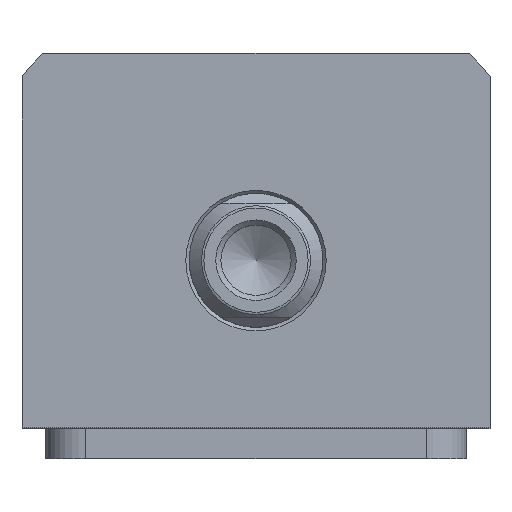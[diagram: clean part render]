
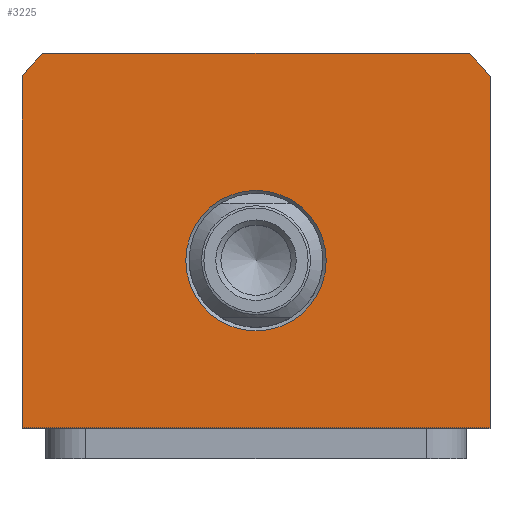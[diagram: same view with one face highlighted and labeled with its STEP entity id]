
A CAD part, top view. The second image highlights one B-rep face of the part: STEP entity #3225.
In plain terms, the highlighted planar face has unit normal (0, 0, 1).
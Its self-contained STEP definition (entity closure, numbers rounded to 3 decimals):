
#3225=ADVANCED_FACE('',(#3992,#3993),#3659,.T.);
#3659=PLANE('',#11125);
#3992=FACE_BOUND('',#4199,.T.);
#3993=FACE_BOUND('',#4200,.T.);
#4199=EDGE_LOOP('',(#6665));
#4200=EDGE_LOOP('',(#6666,#6667,#6668,#6669,#6670,#6671));
#4710=LINE('',#13414,#5547);
#4743=LINE('',#14075,#5580);
#4763=LINE('',#14130,#5600);
#4772=LINE('',#14156,#5609);
#5547=VECTOR('',#11532,1.);
#5580=VECTOR('',#11679,1.);
#5600=VECTOR('',#11727,1.);
#5609=VECTOR('',#11750,1.);
#6665=ORIENTED_EDGE('',*,*,#9744,.T.);
#6666=ORIENTED_EDGE('',*,*,#9839,.T.);
#6667=ORIENTED_EDGE('',*,*,#9867,.T.);
#6668=ORIENTED_EDGE('',*,*,#9853,.T.);
#6669=ORIENTED_EDGE('',*,*,#9881,.T.);
#6670=ORIENTED_EDGE('',*,*,#9849,.T.);
#6671=ORIENTED_EDGE('',*,*,#9731,.T.);
#8884=VERTEX_POINT('',#13413);
#8885=VERTEX_POINT('',#13415);
#8897=VERTEX_POINT('',#13441);
#8984=VERTEX_POINT('',#14074);
#8991=VERTEX_POINT('',#14093);
#8993=VERTEX_POINT('',#14099);
#8996=VERTEX_POINT('',#14104);
#9731=EDGE_CURVE('',#8885,#8884,#4710,.T.);
#9744=EDGE_CURVE('',#8897,#8897,#10931,.T.);
#9839=EDGE_CURVE('',#8884,#8984,#4743,.T.);
#9849=EDGE_CURVE('',#8991,#8885,#10969,.T.);
#9853=EDGE_CURVE('',#8993,#8996,#10971,.T.);
#9867=EDGE_CURVE('',#8984,#8993,#4763,.T.);
#9881=EDGE_CURVE('',#8996,#8991,#4772,.T.);
#10931=CIRCLE('',#11043,10.5);
#10969=CIRCLE('',#11107,44.5);
#10971=CIRCLE('',#11110,44.5);
#11043=AXIS2_PLACEMENT_3D('',#13440,#11547,#11548);
#11107=AXIS2_PLACEMENT_3D('',#14096,#11700,#11701);
#11110=AXIS2_PLACEMENT_3D('',#14105,#11708,#11709);
#11125=AXIS2_PLACEMENT_3D('',#14167,#11764,#11765);
#11532=DIRECTION('',(0.,-1.,0.));
#11547=DIRECTION('',(0.,0.,-1.));
#11548=DIRECTION('',(1.,0.,0.));
#11679=DIRECTION('',(1.,0.,0.));
#11700=DIRECTION('',(0.,0.,1.));
#11701=DIRECTION('',(1.,0.,0.));
#11708=DIRECTION('',(0.,0.,1.));
#11709=DIRECTION('',(1.,0.,0.));
#11727=DIRECTION('',(0.,1.,0.));
#11750=DIRECTION('',(-1.,0.,0.));
#11764=DIRECTION('',(0.,0.,1.));
#11765=DIRECTION('',(-1.,0.,0.));
#13413=CARTESIAN_POINT('',(-35.,-25.,47.));
#13414=CARTESIAN_POINT('',(-35.,-25.,47.));
#13415=CARTESIAN_POINT('',(-35.,27.482,47.));
#13440=CARTESIAN_POINT('',(0.,0.,47.));
#13441=CARTESIAN_POINT('',(10.5,0.,47.));
#14074=CARTESIAN_POINT('',(35.,-25.,47.));
#14075=CARTESIAN_POINT('',(35.,-25.,47.));
#14093=CARTESIAN_POINT('',(-31.926,31.,47.));
#14096=CARTESIAN_POINT('',(0.,0.,47.));
#14099=CARTESIAN_POINT('',(35.,27.482,47.));
#14104=CARTESIAN_POINT('',(31.926,31.,47.));
#14105=CARTESIAN_POINT('',(0.,0.,47.));
#14130=CARTESIAN_POINT('',(35.,27.482,47.));
#14156=CARTESIAN_POINT('',(-31.926,31.,47.));
#14167=CARTESIAN_POINT('',(0.,0.,47.));
